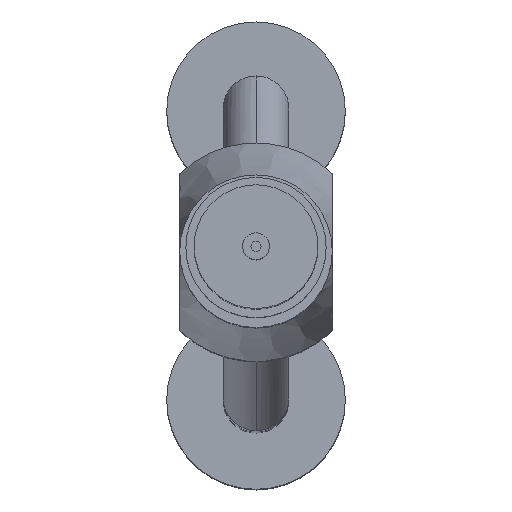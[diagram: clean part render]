
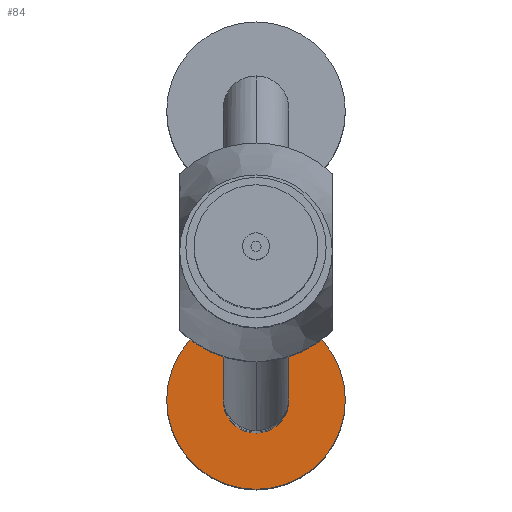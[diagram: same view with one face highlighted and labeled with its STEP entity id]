
A CAD part, top view. The second image highlights one B-rep face of the part: STEP entity #84.
In plain terms, the highlighted planar face has unit normal (0, 0, 1) as drawn and (-1, 0, 0) by its records, which use the part's own axes.
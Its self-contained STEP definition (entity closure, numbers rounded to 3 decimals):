
#2 = ORIENTED_EDGE ( 'NONE', *, *, #71, .F. ) ;
#59 = EDGE_CURVE ( 'NONE', #60, #61, #856, .T. ) ;
#60 = VERTEX_POINT ( 'NONE', #851 ) ;
#61 = VERTEX_POINT ( 'NONE', #850 ) ;
#71 = EDGE_CURVE ( 'NONE', #76, #73, #896, .T. ) ;
#73 = VERTEX_POINT ( 'NONE', #890 ) ;
#76 = VERTEX_POINT ( 'NONE', #885 ) ;
#80 = EDGE_CURVE ( 'NONE', #61, #60, #878, .T. ) ;
#82 = ORIENTED_EDGE ( 'NONE', *, *, #83, .F. ) ;
#83 = EDGE_CURVE ( 'NONE', #73, #76, #873, .T. ) ;
#84 = ADVANCED_FACE ( 'NONE', ( #932, #931 ), #930, .F. ) ;
#92 = EDGE_LOOP ( 'NONE', ( #93, #94 ) ) ;
#93 = ORIENTED_EDGE ( 'NONE', *, *, #59, .F. ) ;
#94 = ORIENTED_EDGE ( 'NONE', *, *, #80, .F. ) ;
#95 = EDGE_LOOP ( 'NONE', ( #82, #2 ) ) ;
#850 = CARTESIAN_POINT ( 'NONE',  ( 130., -3.5, 2.165 ) ) ;
#851 = CARTESIAN_POINT ( 'NONE',  ( 130., -3.5, -2.165 ) ) ;
#852 = DIRECTION ( 'NONE',  ( 0., 0., -1. ) ) ;
#853 = DIRECTION ( 'NONE',  ( 1., 0., 0. ) ) ;
#854 = CARTESIAN_POINT ( 'NONE',  ( 130., -3.5, 0. ) ) ;
#855 = AXIS2_PLACEMENT_3D ( 'NONE', #854, #853, #852 ) ;
#856 = CIRCLE ( 'NONE', #855, 2.165 ) ;
#870 = DIRECTION ( 'NONE',  ( -1., 0., 0. ) ) ;
#871 = CARTESIAN_POINT ( 'NONE',  ( 130., -3.5, 0. ) ) ;
#872 = AXIS2_PLACEMENT_3D ( 'NONE', #871, #870, #933 ) ;
#873 = CIRCLE ( 'NONE', #872, 0.8 ) ;
#874 = DIRECTION ( 'NONE',  ( 0., 0., -1. ) ) ;
#875 = DIRECTION ( 'NONE',  ( 1., 0., 0. ) ) ;
#876 = CARTESIAN_POINT ( 'NONE',  ( 130., -3.5, 0. ) ) ;
#877 = AXIS2_PLACEMENT_3D ( 'NONE', #876, #875, #874 ) ;
#878 = CIRCLE ( 'NONE', #877, 2.165 ) ;
#885 = CARTESIAN_POINT ( 'NONE',  ( 130., -3.5, 0.8 ) ) ;
#890 = CARTESIAN_POINT ( 'NONE',  ( 130., -3.5, -0.8 ) ) ;
#892 = DIRECTION ( 'NONE',  ( 0., 0., -1. ) ) ;
#893 = DIRECTION ( 'NONE',  ( -1., 0., 0. ) ) ;
#894 = CARTESIAN_POINT ( 'NONE',  ( 130., -3.5, 0. ) ) ;
#895 = AXIS2_PLACEMENT_3D ( 'NONE', #894, #893, #892 ) ;
#896 = CIRCLE ( 'NONE', #895, 0.8 ) ;
#926 = DIRECTION ( 'NONE',  ( 0., 0., -1. ) ) ;
#927 = DIRECTION ( 'NONE',  ( 1., 0., 0. ) ) ;
#928 = CARTESIAN_POINT ( 'NONE',  ( 130., -3.5, 0. ) ) ;
#929 = AXIS2_PLACEMENT_3D ( 'NONE', #928, #927, #926 ) ;
#930 = PLANE ( 'NONE',  #929 ) ;
#931 = FACE_BOUND ( 'NONE', #95, .T. ) ;
#932 = FACE_OUTER_BOUND ( 'NONE', #92, .T. ) ;
#933 = DIRECTION ( 'NONE',  ( 0., 0., -1. ) ) ;
